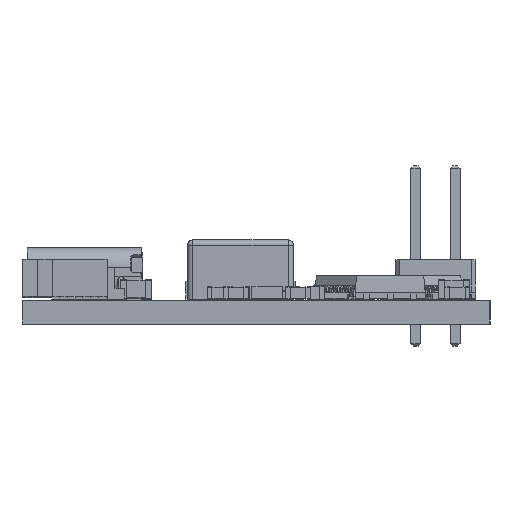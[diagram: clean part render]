
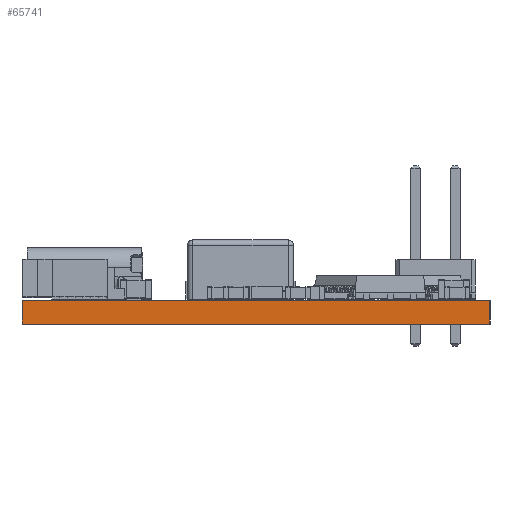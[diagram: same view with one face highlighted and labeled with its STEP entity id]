
A CAD part, left-side view. The second image highlights one B-rep face of the part: STEP entity #65741.
In plain terms, the highlighted planar face has unit normal (-1, 0, 0).
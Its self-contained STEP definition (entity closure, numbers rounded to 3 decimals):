
#65685 = VERTEX_POINT('',#65686);
#65686 = CARTESIAN_POINT('',(67.5,-80.,1.51));
#65692 = EDGE_CURVE('',#65693,#65685,#65695,.T.);
#65693 = VERTEX_POINT('',#65694);
#65694 = CARTESIAN_POINT('',(67.5,-80.,0.));
#65695 = LINE('',#65696,#65697);
#65696 = CARTESIAN_POINT('',(67.5,-80.,0.));
#65697 = VECTOR('',#65698,1.);
#65698 = DIRECTION('',(0.,0.,1.));
#65741 = ADVANCED_FACE('',(#65742),#65767,.T.);
#65742 = FACE_BOUND('',#65743,.T.);
#65743 = EDGE_LOOP('',(#65744,#65745,#65753,#65761));
#65744 = ORIENTED_EDGE('',*,*,#65692,.T.);
#65745 = ORIENTED_EDGE('',*,*,#65746,.T.);
#65746 = EDGE_CURVE('',#65685,#65747,#65749,.T.);
#65747 = VERTEX_POINT('',#65748);
#65748 = CARTESIAN_POINT('',(67.5,-50.,1.51));
#65749 = LINE('',#65750,#65751);
#65750 = CARTESIAN_POINT('',(67.5,-80.,1.51));
#65751 = VECTOR('',#65752,1.);
#65752 = DIRECTION('',(0.,1.,0.));
#65753 = ORIENTED_EDGE('',*,*,#65754,.F.);
#65754 = EDGE_CURVE('',#65755,#65747,#65757,.T.);
#65755 = VERTEX_POINT('',#65756);
#65756 = CARTESIAN_POINT('',(67.5,-50.,0.));
#65757 = LINE('',#65758,#65759);
#65758 = CARTESIAN_POINT('',(67.5,-50.,0.));
#65759 = VECTOR('',#65760,1.);
#65760 = DIRECTION('',(0.,0.,1.));
#65761 = ORIENTED_EDGE('',*,*,#65762,.F.);
#65762 = EDGE_CURVE('',#65693,#65755,#65763,.T.);
#65763 = LINE('',#65764,#65765);
#65764 = CARTESIAN_POINT('',(67.5,-80.,0.));
#65765 = VECTOR('',#65766,1.);
#65766 = DIRECTION('',(0.,1.,0.));
#65767 = PLANE('',#65768);
#65768 = AXIS2_PLACEMENT_3D('',#65769,#65770,#65771);
#65769 = CARTESIAN_POINT('',(67.5,-80.,0.));
#65770 = DIRECTION('',(-1.,0.,0.));
#65771 = DIRECTION('',(0.,1.,0.));
